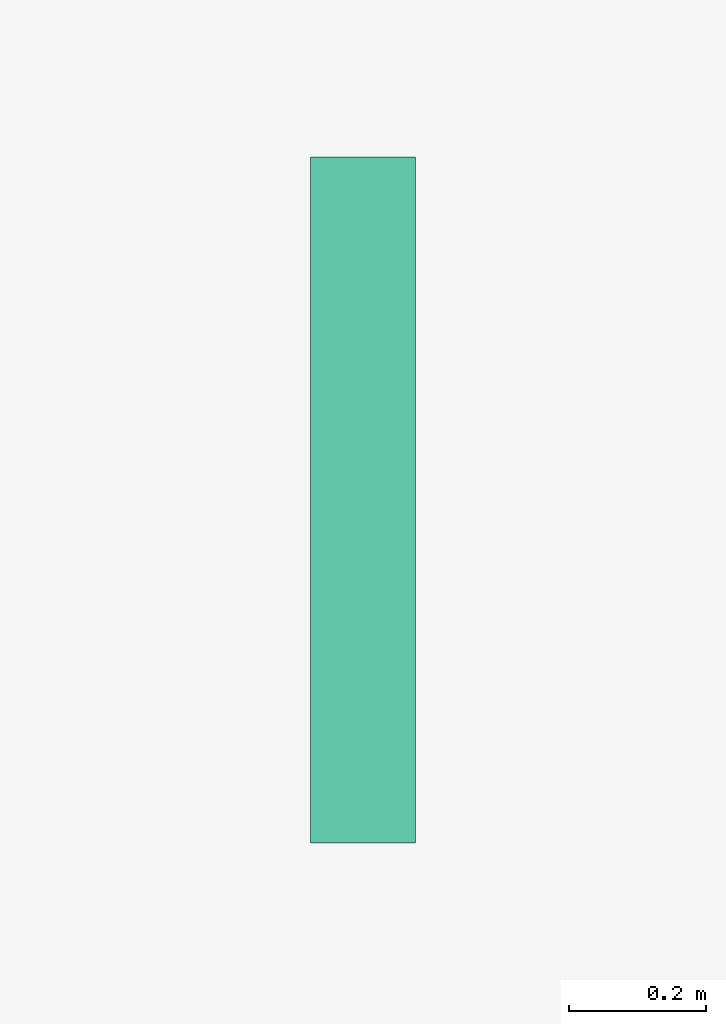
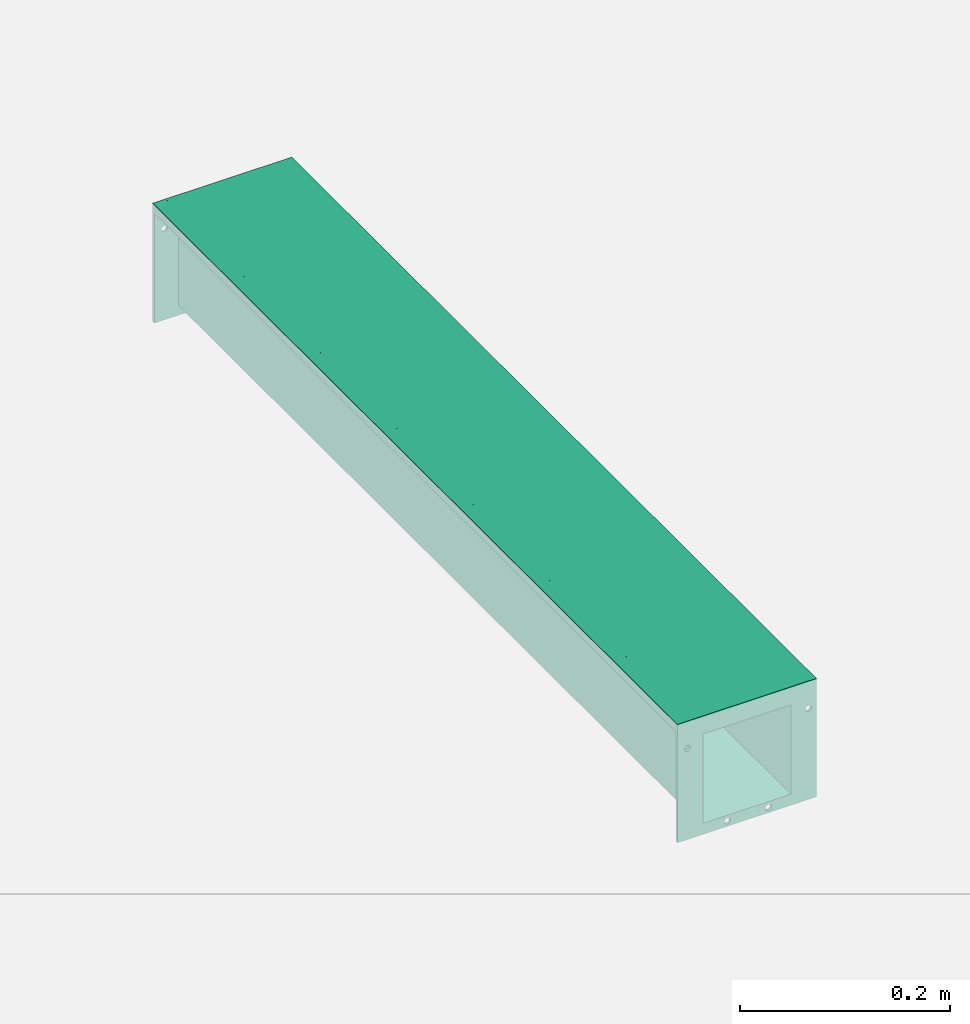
# One storey, part 2 of 2: 1 flow terminal.
"""IFC2X3 building model written with IfcOpenShell, lengths in millimetres."""

import ifcopenshell
import ifcopenshell.guid

model = None  # the IFC model being written
_history = None  # IfcOwnerHistory: only IFC2X3 demands one
_inside = {}  # id of a spatial element -> (the spatial element, [elements in it])
_under = {}  # id of a project, library or spatial element -> (it, [spatial elements below it])
_declared = {}  # id of a project -> (the project, [libraries it declares])
_typed = {}  # id of a type object -> (the type object, [elements of that type])
_made_of = {}  # id of a material, layer set ... -> (it, [elements and type objects made of it])


def new_model(schema):
    """Start an empty IFC model of exactly this schema.

    Asked for "IFC4X3", IfcOpenShell would pick the latest addendum, in which some entities
    have other attributes; the version numbers below select the first issue.
    IFC2X3 requires an IfcOwnerHistory on every rooted entity: one is made here for all.
    """
    global model, _history
    if schema == "IFC4X3":
        model = ifcopenshell.file(schema_version=(4, 3, 0, 0))
    else:
        model = ifcopenshell.file(schema=schema)
    _inside.clear()
    _under.clear()
    _declared.clear()
    _typed.clear()
    _made_of.clear()
    _history = None
    if model.schema == "IFC2X3":
        org = make("IfcOrganization", Name="unknown")
        user = make(
            "IfcPersonAndOrganization",
            ThePerson=make("IfcPerson", FamilyName="unknown"),
            TheOrganization=org,
        )
        app = make(
            "IfcApplication",
            ApplicationDeveloper=org,
            Version="unknown",
            ApplicationFullName="unknown",
            ApplicationIdentifier="unknown",
        )
        _history = make(
            "IfcOwnerHistory",
            OwningUser=user,
            OwningApplication=app,
            ChangeAction="ADDED",
            CreationDate=0,
        )
    return model


def make(cls, **values):
    """One entity of the class cls with the attributes given. An attribute that is None is left unset."""
    return model.create_entity(
        cls, **{name: value for name, value in values.items() if value is not None}
    )


def entity(cls, *values):
    """Any entity or typed value of the class cls, its attributes in the order of the schema. None: left unset."""
    e = model.create_entity(cls)
    for i, value in enumerate(values):
        if value is not None:
            e[i] = value
    return e


def rooted(cls, **values):
    """An entity with a GlobalId (a new one), such as an element, a storey or a relation."""
    return make(cls, GlobalId=ifcopenshell.guid.new(), OwnerHistory=_history, **values)


def si_unit(unit_type, name, prefix=None):
    """IfcSIUnit, for example si_unit("LENGTHUNIT", "METRE", prefix="MILLI")."""
    return make("IfcSIUnit", UnitType=unit_type, Prefix=prefix, Name=name)


def converted_unit(unit_type, name, factor, base, dimensions=None, offset=None):
    """IfcConversionBasedUnit, such as the inch: factor (a typed value) times the base unit."""
    return make(
        "IfcConversionBasedUnit"
        if offset is None
        else "IfcConversionBasedUnitWithOffset",
        ConversionOffset=offset,
        Dimensions=None
        if dimensions is None
        else entity("IfcDimensionalExponents", *dimensions),
        UnitType=unit_type,
        Name=name,
        ConversionFactor=make(
            "IfcMeasureWithUnit", ValueComponent=factor, UnitComponent=base
        ),
    )


def assignment(units):
    """IfcUnitAssignment: the units of a project."""
    return None if units is None else make("IfcUnitAssignment", Units=units)


def point(xyz):
    """IfcCartesianPoint."""
    return None if xyz is None else make("IfcCartesianPoint", Coordinates=xyz)


def direction(xyz):
    """IfcDirection."""
    return None if xyz is None else make("IfcDirection", DirectionRatios=xyz)


def frame(location, z_axis=None, x_axis=None):
    """IfcAxis2Placement3D, a coordinate frame: its origin and axes. An axis left out is left unset."""
    return make(
        "IfcAxis2Placement3D",
        Location=point(location),
        Axis=direction(z_axis),
        RefDirection=direction(x_axis),
    )


def frame_2d(location, x_axis=None):
    """IfcAxis2Placement2D, a coordinate frame in the plane: its origin and x axis."""
    return make(
        "IfcAxis2Placement2D", Location=point(location), RefDirection=direction(x_axis)
    )


def origin():
    """The frame at (0, 0, 0) with its axes left unset."""
    return frame((0.0, 0.0, 0.0))


def origin_2d_with_axis():
    """The frame at (0, 0) in the plane with the x axis (1, 0) written out."""
    return frame_2d((0.0, 0.0), x_axis=(1.0, 0.0))


def place(relative_to, where):
    """IfcLocalPlacement: puts the frame where relative to a parent placement (None: the world)."""
    return make(
        "IfcLocalPlacement", PlacementRelTo=relative_to, RelativePlacement=where
    )


def context(
    kind, dimensions, precision=None, world=None, true_north=None, identifier=None
):
    """IfcGeometricRepresentationContext, for example the 3D "Model" context."""
    return make(
        "IfcGeometricRepresentationContext",
        ContextIdentifier=identifier,
        ContextType=kind,
        CoordinateSpaceDimension=dimensions,
        Precision=precision,
        WorldCoordinateSystem=world,
        TrueNorth=true_north,
    )


def subcontext(parent, identifier, kind, view, scale=None):
    """IfcGeometricRepresentationSubContext, for example "Body" below "Model"."""
    return make(
        "IfcGeometricRepresentationSubContext",
        ContextIdentifier=identifier,
        ContextType=kind,
        ParentContext=parent,
        TargetScale=scale,
        TargetView=view,
    )


def project(units=None, contexts=None):
    """IfcProject with its units and contexts."""
    return rooted(
        "IfcProject",
        Name="project",
        RepresentationContexts=contexts,
        UnitsInContext=assignment(units),
    )


def spatial(cls, under=None, at=None, **own):
    """A site, building, storey or space (cls), placed at a placement, below another one or the project."""
    s = rooted(cls, ObjectPlacement=at, **own)
    if under is not None:
        _under.setdefault(under.id(), (under, []))[1].append(s)
    return s


def polyline(points):
    """IfcPolyline through the points."""
    return make("IfcPolyline", Points=[point(p) for p in points])


def circle_curve(where, radius):
    """IfcCircle in the frame where."""
    return make("IfcCircle", Position=where, Radius=radius)


def parameter(value):
    """IfcParameterValue: where a trimmed curve begins or ends, as a parameter of its basis curve."""
    return model.create_entity("IfcParameterValue", value)


def trimmed(basis, trim1, trim2, sense, master):
    """IfcTrimmedCurve: the piece of a basis curve between two trims."""
    return make(
        "IfcTrimmedCurve",
        BasisCurve=basis,
        Trim1=trim1,
        Trim2=trim2,
        SenseAgreement=sense,
        MasterRepresentation=master,
    )


def segment(curve, same_sense, transition):
    """IfcCompositeCurveSegment."""
    return make(
        "IfcCompositeCurveSegment",
        Transition=transition,
        SameSense=same_sense,
        ParentCurve=curve,
    )


def composite_curve(segments, self_intersect=None):
    """IfcCompositeCurve: segments joined end to end."""
    return make("IfcCompositeCurve", Segments=segments, SelfIntersect=self_intersect)


def profile(cls, at=None, kind="AREA", **sizes):
    """A parametric profile (cls). Its sizes go by their IFC names, for example OverallWidth=200.0."""
    return make(cls, ProfileType=kind, Position=at, **sizes)


def rectangle(**sizes):
    """IfcRectangleProfileDef."""
    return profile("IfcRectangleProfileDef", **sizes)


def outline(outer, holes=None, kind="AREA"):
    """IfcArbitraryClosedProfileDef: a profile drawn as a closed curve; with holes, ...WithVoids."""
    if holes is None:
        return make("IfcArbitraryClosedProfileDef", ProfileType=kind, OuterCurve=outer)
    return make(
        "IfcArbitraryProfileDefWithVoids",
        ProfileType=kind,
        OuterCurve=outer,
        InnerCurves=holes,
    )


def extrude(swept, where, along, depth):
    """IfcExtrudedAreaSolid: the profile swept, set in the frame where, extruded along a direction by depth."""
    return make(
        "IfcExtrudedAreaSolid",
        SweptArea=swept,
        Position=where,
        ExtrudedDirection=direction(along),
        Depth=depth,
    )


def shape(context_of_items, identifier, shape_type, items):
    """IfcShapeRepresentation: the items that make up one representation, for example the "Body"."""
    return make(
        "IfcShapeRepresentation",
        ContextOfItems=context_of_items,
        RepresentationIdentifier=identifier,
        RepresentationType=shape_type,
        Items=items,
    )


def source(mapping_origin, context_of_items, identifier, shape_type, items):
    """IfcRepresentationMap: a shape defined once, which mapped items show again and again."""
    return make(
        "IfcRepresentationMap",
        MappingOrigin=mapping_origin,
        MappedRepresentation=shape(context_of_items, identifier, shape_type, items),
    )


def transform(
    local_origin,
    x_axis=None,
    y_axis=None,
    z_axis=None,
    scale=None,
    scale2=None,
    scale3=None,
    uniform=True,
):
    """IfcCartesianTransformationOperator3D, or its non-uniform kind. x_axis, y_axis, z_axis: its Axis1, 2, 3."""
    if uniform:
        return make(
            "IfcCartesianTransformationOperator3D",
            Axis1=direction(x_axis),
            Axis2=direction(y_axis),
            LocalOrigin=point(local_origin),
            Scale=scale,
            Axis3=direction(z_axis),
        )
    return make(
        "IfcCartesianTransformationOperator3DnonUniform",
        Axis1=direction(x_axis),
        Axis2=direction(y_axis),
        LocalOrigin=point(local_origin),
        Scale=scale,
        Axis3=direction(z_axis),
        Scale2=scale2,
        Scale3=scale3,
    )


def mapped(mapping_source, mapping_target):
    """IfcMappedItem: shows the shape of a source again, moved by a transform."""
    return make(
        "IfcMappedItem", MappingSource=mapping_source, MappingTarget=mapping_target
    )


def material(Name=None, Category=None):
    """IfcMaterial."""
    return make("IfcMaterial", Name=Name, Category=Category)


def material_list(materials):
    """IfcMaterialList."""
    return make("IfcMaterialList", Materials=materials)


def made_of(thing, what):
    """Note that an element or type object is made of a material, layer set ...; save() writes the relation."""
    if what is not None:
        _made_of.setdefault(what.id(), (what, []))[1].append(thing)
    return thing


def element(
    cls,
    number,
    at=None,
    inside=None,
    cuts=None,
    type_object=None,
    material=None,
    context=None,
    identifier="Body",
    shape_type=None,
    held_by="IfcProductDefinitionShape",
    body=None,
    shapes=None,
    **own,
):
    """One element of the class cls, such as IfcWall. Its Tag is "e" and its number.

    at: its placement. inside: the storey or other place that contains it. cuts: it is an
    opening in that element (IfcRelVoidsElement). A single representation is given by context,
    identifier, shape_type and body (its items); several are given by shapes. held_by: the class
    of the entity that holds the representations. save() writes the other relations.
    """
    e = rooted(cls, Tag="e%d" % number, ObjectPlacement=at, **own)
    if body is not None:
        shapes = [shape(context, identifier, shape_type, body)]
    if shapes is not None:
        e.Representation = make(held_by, Representations=shapes)
    if inside is not None:
        _inside.setdefault(inside.id(), (inside, []))[1].append(e)
    if cuts is not None:
        rooted(
            "IfcRelVoidsElement", RelatingBuildingElement=cuts, RelatedOpeningElement=e
        )
    if type_object is not None:
        _typed.setdefault(type_object.id(), (type_object, []))[1].append(e)
    return made_of(e, material)


def aggregate(whole, parts):
    """IfcRelAggregates: a whole, such as a stair, and the parts it consists of."""
    return rooted("IfcRelAggregates", RelatingObject=whole, RelatedObjects=parts)


def save(model, path):
    """Write the relations noted so far, then the file.

    IfcRelAggregates (storeys below a building ...), IfcRelContainedInSpatialStructure (elements
    in a storey), IfcRelDefinesByType, IfcRelAssociatesMaterial and IfcRelDeclares: one each for
    every whole, place, type object, material and project.
    """
    for whole, parts in _under.values():
        aggregate(whole, parts)
    for where, things in _inside.values():
        rooted(
            "IfcRelContainedInSpatialStructure",
            RelatedElements=things,
            RelatingStructure=where,
        )
    for kind, things in _typed.values():
        rooted("IfcRelDefinesByType", RelatedObjects=things, RelatingType=kind)
    for what, things in _made_of.values():
        rooted("IfcRelAssociatesMaterial", RelatedObjects=things, RelatingMaterial=what)
    for by, libraries in _declared.values():
        rooted("IfcRelDeclares", RelatingContext=by, RelatedDefinitions=libraries)
    model.write(path)


model = new_model("IFC2X3")

# Units and contexts
model_context = context("Model", 3, precision=1e-06, world=origin(), true_north=direction((2.0, 6.12303176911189e-17, 1.0)))
context_of_model = context(None, 3, precision=1e-06, world=origin(), true_north=direction((2.0, 6.12303176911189e-17, 1.0)))
body_context = subcontext(model_context, "Body", "Model", "MODEL_VIEW")
ifc_project = project(units=[si_unit("LENGTHUNIT", "METRE", prefix="MILLI"), si_unit("AREAUNIT", "SQUARE_METRE", prefix="MILLI"), si_unit("VOLUMEUNIT", "CUBIC_METRE", prefix="MILLI"), converted_unit("PLANEANGLEUNIT", "DEGREE", entity("IfcRatioMeasure", 0.0174532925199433), si_unit("PLANEANGLEUNIT", "RADIAN"), dimensions=[0, 0, 0, 0, 0, 0, 0]), si_unit("TIMEUNIT", "SECOND")], contexts=[model_context, context_of_model])

# Site, building, storey
site_placement = place(None, origin())
site = spatial("IfcSite", under=ifc_project, at=site_placement, Name="Default", CompositionType="ELEMENT")
building_placement = place(site_placement, origin())
building = spatial("IfcBuilding", under=site, at=building_placement, CompositionType="ELEMENT")
storey_placement = place(building_placement, origin())
storey = spatial("IfcBuildingStorey", under=building, at=storey_placement, Name="Level 1", CompositionType="ELEMENT", Elevation=0.0)

# Flow terminal
ifc_material_1 = material(Name="Stainless Steel AISI 304")
ifc_material_2 = material(Name="Polystyrene, High Impact (F)")
ifc_material_list = material_list([ifc_material_1, ifc_material_2])
shared_shape = source(origin(), body_context, "Body", "SweptSolid", [
    extrude(rectangle(XDim=1000.0, YDim=124.999917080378, at=origin_2d_with_axis()), frame((4.14598109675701e-05, 500.0, -21.0), z_axis=(0.0, 0.0, 1.0), x_axis=(0.0, 1.0, 0.0)), (0.0, 0.0, 1.0), 20.9999999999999),
    extrude(outline(polyline([(-76.5000276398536, -50.8000000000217), (-62.4999447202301, -50.8000000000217), (-62.4999447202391, -29.8000000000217), (-48.499944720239, -29.8000000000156), (-48.4999447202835, 74.1999999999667), (48.4999723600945, 74.2000000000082), (48.499972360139, -29.7999999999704), (62.4999723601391, -29.7999999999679), (62.4999723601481, -50.7999999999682), (76.4999723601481, -50.7999999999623), (76.4999723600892, 87.0), (-76.5000276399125, 87.0), (-76.5000276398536, -50.8000000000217)]), holes=[composite_curve([segment(trimmed(circle_curve(frame_2d((67.7349848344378, -18.9014274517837), x_axis=(1.0, 0.0)), 3.5), [parameter(0.0)], [parameter(180.0)], True, "PARAMETER"), False, "CONTINUOUS"), segment(trimmed(circle_curve(frame_2d((67.7349848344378, -18.9014274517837), x_axis=(1.0, 0.0)), 3.5), [parameter(180.0)], [parameter(360.0)], True, "PARAMETER"), False, "CONTINUOUS")], self_intersect=False), composite_curve([segment(trimmed(circle_curve(frame_2d((23.7349848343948, 80.9218749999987), x_axis=(1.0, 0.0)), 3.5), [parameter(0.0)], [parameter(180.0)], True, "PARAMETER"), False, "CONTINUOUS"), segment(trimmed(circle_curve(frame_2d((23.7349848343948, 80.9218749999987), x_axis=(1.0, 0.0)), 3.5), [parameter(180.0)], [parameter(360.0)], True, "PARAMETER"), False, "CONTINUOUS")], self_intersect=False), composite_curve([segment(trimmed(circle_curve(frame_2d((-21.2650151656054, 80.9218749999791), x_axis=(1.0, 0.0)), 3.5), [parameter(180.0)], [parameter(360.0)], True, "PARAMETER"), False, "CONTINUOUS"), segment(trimmed(circle_curve(frame_2d((-21.2650151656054, 80.9218749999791), x_axis=(1.0, 0.0)), 3.5), [parameter(360.0)], [parameter(180.0)], True, "PARAMETER"), False, "CONTINUOUS")], self_intersect=False), composite_curve([segment(trimmed(circle_curve(frame_2d((-65.2650151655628, -18.9014274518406), x_axis=(1.0, 0.0)), 3.5), [parameter(179.999999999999)], [parameter(360.0)], True, "PARAMETER"), False, "CONTINUOUS"), segment(trimmed(circle_curve(frame_2d((-65.2650151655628, -18.9014274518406), x_axis=(1.0, 0.0)), 3.5), [parameter(0.0)], [parameter(180.0)], True, "PARAMETER"), False, "CONTINUOUS")], self_intersect=False)]), frame((2.7639875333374e-05, 997.0, -50.8000000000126), z_axis=(0.0, 1.0, 0.0), x_axis=(1.0, 0.0, 0.0)), (0.0, 0.0, 1.0), 2.99999999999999),
    extrude(outline(polyline([(-76.499958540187, -50.80000137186), (-62.4999585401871, -50.80000137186), (-62.4999585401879, -29.8000013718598), (-48.4999585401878, -29.8000013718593), (-48.499958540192, 74.1999986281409), (48.499958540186, 74.1999986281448), (48.4999585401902, -29.8000013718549), (62.4999585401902, -29.8000013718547), (62.4999585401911, -50.800001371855), (76.4999585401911, -50.8000013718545), (76.4999585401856, 87.0000068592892), (-76.4999585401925, 87.0000068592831), (-76.499958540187, -50.80000137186)]), holes=[composite_curve([segment(trimmed(circle_curve(frame_2d((67.7349710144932, -18.9014288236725), x_axis=(1.0, 0.0)), 3.5), [parameter(0.0)], [parameter(180.0)], True, "PARAMETER"), False, "CONTINUOUS"), segment(trimmed(circle_curve(frame_2d((67.7349710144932, -18.9014288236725), x_axis=(1.0, 0.0)), 3.5), [parameter(180.0)], [parameter(360.0)], True, "PARAMETER"), False, "CONTINUOUS")], self_intersect=False), composite_curve([segment(trimmed(circle_curve(frame_2d((23.7349710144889, 80.9218818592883), x_axis=(1.0, 0.0)), 3.5), [parameter(0.0)], [parameter(180.0)], True, "PARAMETER"), False, "CONTINUOUS"), segment(trimmed(circle_curve(frame_2d((23.7349710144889, 80.9218818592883), x_axis=(1.0, 0.0)), 3.5), [parameter(180.0)], [parameter(359.999999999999)], True, "PARAMETER"), False, "CONTINUOUS")], self_intersect=False), composite_curve([segment(trimmed(circle_curve(frame_2d((-21.2650289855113, 80.9218818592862), x_axis=(1.0, 0.0)), 3.5), [parameter(180.0)], [parameter(360.0)], True, "PARAMETER"), False, "CONTINUOUS"), segment(trimmed(circle_curve(frame_2d((-21.2650289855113, 80.9218818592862), x_axis=(1.0, 0.0)), 3.5), [parameter(360.0)], [parameter(180.0)], True, "PARAMETER"), False, "CONTINUOUS")], self_intersect=False), composite_curve([segment(trimmed(circle_curve(frame_2d((-65.2650289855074, -18.9014288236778), x_axis=(1.0, 0.0)), 3.5), [parameter(180.0)], [parameter(0.0)], True, "PARAMETER"), False, "CONTINUOUS"), segment(trimmed(circle_curve(frame_2d((-65.2650289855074, -18.9014288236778), x_axis=(1.0, 0.0)), 3.5), [parameter(0.0)], [parameter(180.0)], True, "PARAMETER"), False, "CONTINUOUS")], self_intersect=False)]), frame((4.14598109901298e-05, 0.0, -50.8000013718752), z_axis=(0.0, 1.0, 0.0), x_axis=(1.0, 0.0, 0.0)), (0.0, 0.0, 1.0), 3.0),
    extrude(outline(polyline([(-30.1243423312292, -62.4999585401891), (-30.1243423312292, -76.499958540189), (-20.1243423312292, -76.499958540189), (-20.1243423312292, -74.999958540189), (-28.6243423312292, -74.999958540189), (-28.6243423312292, -63.9999585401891), (-7.62434233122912, -63.9999585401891), (-7.6243423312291, -49.999958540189), (96.3717116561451, -49.999958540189), (96.3717116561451, 49.999958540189), (-7.62434233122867, 49.999958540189), (-7.62434233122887, 63.999958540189), (-28.624342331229, 63.9999585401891), (-28.6243423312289, 74.9999585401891), (-20.1243423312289, 74.9999585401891), (-20.1243423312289, 76.4999585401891), (-30.1243423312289, 76.4999585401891), (-30.124342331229, 62.4999585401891), (-9.12434233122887, 62.499958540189), (-9.12434233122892, 48.499958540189), (94.8717116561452, 48.499958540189), (94.8717116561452, -48.499958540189), (-9.12434233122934, -48.499958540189), (-9.12434233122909, -62.4999585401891), (-30.1243423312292, -62.4999585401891)])), frame((4.14598110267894e-05, 3.0, -30.1282883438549), z_axis=(0.0, -1.0, 0.0), x_axis=(0.0, 0.0, -1.0)), (0.0, 0.0, -1.0), 994.0),
    extrude(rectangle(XDim=997.0, YDim=11.0, at=frame_2d((8.5265128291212e-14, 0.0), x_axis=(1.0, 0.0))), frame((69.5000000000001, 501.5, -10.0), z_axis=(0.0, 0.0, 1.0), x_axis=(0.0, 1.0, 0.0)), (0.0, 0.0, 1.0), 8.50000000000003),
    extrude(rectangle(XDim=997.0, YDim=10.9999999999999, at=frame_2d((8.5265128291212e-14, 0.0), x_axis=(1.0, 0.0))), frame((-69.499917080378, 501.5, -10.0), z_axis=(0.0, 0.0, 1.0), x_axis=(0.0, 1.0, 0.0)), (0.0, 0.0, 1.0), 8.50000000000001),
])
flow_terminal_placement = place(storey_placement, frame((-88.2515443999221, -389.522595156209, 0.0)))
element("IfcFlowTerminal", 1, at=flow_terminal_placement, inside=storey, material=ifc_material_list, Name="ACO BD Modular 125 Level Invert Straight Channels:105132 - Straight Channel - 1000mm LG - Invert Depth125mm:105132 - Straight Channel - 1000mm LG - Invert Depth125mm", ObjectType="105132 - Straight Channel - 1000mm LG - Invert Depth125mm", context=body_context, shape_type="MappedRepresentation", body=[
    mapped(shared_shape, transform((0.0, 0.0, 0.0), scale=1.0)),
])

save(model, "model.ifc")
